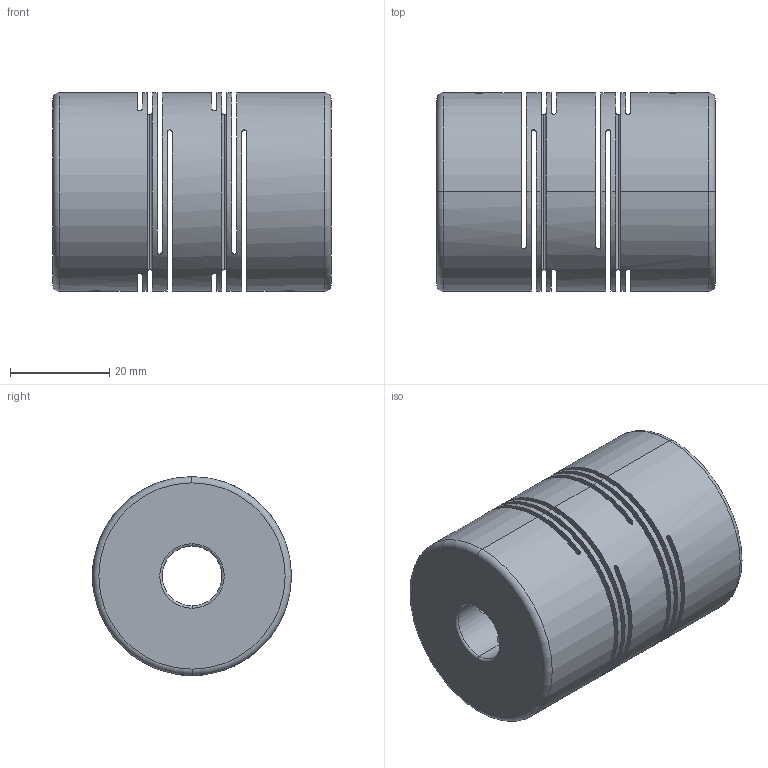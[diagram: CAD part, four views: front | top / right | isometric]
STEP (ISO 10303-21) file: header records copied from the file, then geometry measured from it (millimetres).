
FILE_DESCRIPTION (( 'STEP AP203' ), '1' );
FILE_NAME ('FSMML40-12x12.STEP', '2013-12-28T06:56:08', ( '123' ), ( '' ), 'SwSTEP 2.0', 'SolidWorks 2013', '' );
FILE_SCHEMA (( 'CONFIG_CONTROL_DESIGN' ));
Length unit declared in the file: millimetre
Products named in the file (1): FSMML40-12x12
Bounding box: 56 x 40 x 40 mm (x, y, z)
Surface area: 26097.7 mm2 (no closed solid volume)
Topology: 0 solids, 5 shells, 104 faces, 310 edges, 208 vertices
Faces by surface type: plane 46, cylinder 34, bspline 8, torus 8, cone 8
Entity records: 4511 total; most frequent: CARTESIAN_POINT 1675, ORIENTED_EDGE 560, DIRECTION 552, EDGE_CURVE 310, AXIS2_PLACEMENT_3D 209, VERTEX_POINT 208, VECTOR 134, LINE 134
